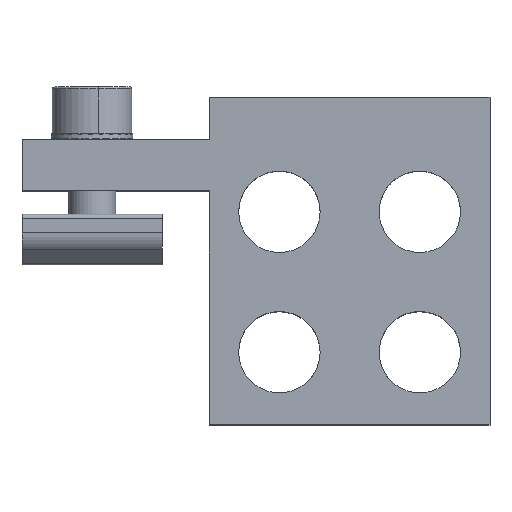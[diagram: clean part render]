
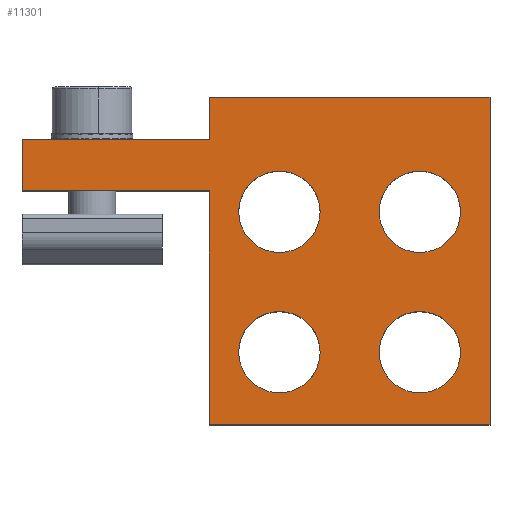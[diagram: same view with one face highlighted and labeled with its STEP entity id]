
A CAD part, top view. The second image highlights one B-rep face of the part: STEP entity #11301.
In plain terms, the highlighted planar face has unit normal (0, 0, 1).
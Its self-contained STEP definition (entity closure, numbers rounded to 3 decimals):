
#134 = CARTESIAN_POINT ( 'NONE',  ( -122.174, 7.97, 54.527 ) ) ;
#207 = FACE_BOUND ( 'NONE', #5509, .T. ) ;
#210 = AXIS2_PLACEMENT_3D ( 'NONE', #11751, #13752, #2068 ) ;
#212 = AXIS2_PLACEMENT_3D ( 'NONE', #3007, #5074, #2964 ) ;
#328 = EDGE_CURVE ( 'NONE', #13907, #859, #9540, .T. ) ;
#366 = ORIENTED_EDGE ( 'NONE', *, *, #11359, .T. ) ;
#859 = VERTEX_POINT ( 'NONE', #6932 ) ;
#898 = VERTEX_POINT ( 'NONE', #5910 ) ;
#912 = DIRECTION ( 'NONE',  ( 0., -1., 0. ) ) ;
#1255 = CARTESIAN_POINT ( 'NONE',  ( -99.674, 30.72, 54.527 ) ) ;
#1290 = EDGE_CURVE ( 'NONE', #12442, #4028, #12128, .T. ) ;
#1441 = ORIENTED_EDGE ( 'NONE', *, *, #4340, .F. ) ;
#1484 = DIRECTION ( 'NONE',  ( 0., 0., -1. ) ) ;
#1581 = AXIS2_PLACEMENT_3D ( 'NONE', #2614, #6012, #8123 ) ;
#1671 = EDGE_CURVE ( 'NONE', #859, #13907, #13091, .T. ) ;
#1685 = EDGE_CURVE ( 'NONE', #3381, #12442, #7378, .T. ) ;
#1709 = VERTEX_POINT ( 'NONE', #10033 ) ;
#1713 = CARTESIAN_POINT ( 'NONE',  ( -92.174, 25.47, 54.527 ) ) ;
#2068 = DIRECTION ( 'NONE',  ( 0., -1., 0. ) ) ;
#2482 = CARTESIAN_POINT ( 'NONE',  ( -117.174, 38.47, 54.527 ) ) ;
#2496 = DIRECTION ( 'NONE',  ( 0., -1., 0. ) ) ;
#2532 = CIRCLE ( 'NONE', #212, 4.35 ) ;
#2611 = CARTESIAN_POINT ( 'NONE',  ( -92.174, 42.97, 54.527 ) ) ;
#2614 = CARTESIAN_POINT ( 'NONE',  ( -99.674, 15.72, 54.527 ) ) ;
#2956 = EDGE_CURVE ( 'NONE', #6591, #10465, #2532, .T. ) ;
#2964 = DIRECTION ( 'NONE',  ( 0., -1., 0. ) ) ;
#3007 = CARTESIAN_POINT ( 'NONE',  ( -99.674, 15.72, 54.527 ) ) ;
#3073 = CARTESIAN_POINT ( 'NONE',  ( -122.174, 38.47, 54.527 ) ) ;
#3354 = VERTEX_POINT ( 'NONE', #3073 ) ;
#3381 = VERTEX_POINT ( 'NONE', #7369 ) ;
#3397 = FACE_BOUND ( 'NONE', #13721, .T. ) ;
#3504 = DIRECTION ( 'NONE',  ( -1., 0., 0. ) ) ;
#3583 = CARTESIAN_POINT ( 'NONE',  ( -114.674, 11.37, 54.527 ) ) ;
#3593 = DIRECTION ( 'NONE',  ( 1., 0., 0. ) ) ;
#3657 = CARTESIAN_POINT ( 'NONE',  ( -99.674, 35.07, 54.527 ) ) ;
#3665 = VERTEX_POINT ( 'NONE', #5774 ) ;
#3704 = DIRECTION ( 'NONE',  ( 0., 0., -1. ) ) ;
#3728 = DIRECTION ( 'NONE',  ( 0., 0., -1. ) ) ;
#3748 = LINE ( 'NONE', #11709, #13724 ) ;
#3763 = VECTOR ( 'NONE', #3504, 1000. ) ;
#3900 = CARTESIAN_POINT ( 'NONE',  ( -114.674, 15.72, 54.527 ) ) ;
#4028 = VERTEX_POINT ( 'NONE', #4633 ) ;
#4078 = AXIS2_PLACEMENT_3D ( 'NONE', #10541, #9499, #8378 ) ;
#4340 = EDGE_CURVE ( 'NONE', #3665, #898, #7211, .T. ) ;
#4472 = CARTESIAN_POINT ( 'NONE',  ( -99.674, 11.37, 54.527 ) ) ;
#4601 = DIRECTION ( 'NONE',  ( -1., 0., 0. ) ) ;
#4633 = CARTESIAN_POINT ( 'NONE',  ( -92.174, 7.97, 54.527 ) ) ;
#4963 = FACE_OUTER_BOUND ( 'NONE', #8060, .T. ) ;
#4977 = CARTESIAN_POINT ( 'NONE',  ( -99.674, 20.07, 54.527 ) ) ;
#5046 = CARTESIAN_POINT ( 'NONE',  ( -122.174, 42.97, 54.527 ) ) ;
#5074 = DIRECTION ( 'NONE',  ( 0., 0., -1. ) ) ;
#5236 = EDGE_CURVE ( 'NONE', #3354, #1709, #11897, .T. ) ;
#5257 = PLANE ( 'NONE',  #4078 ) ;
#5418 = EDGE_CURVE ( 'NONE', #10190, #3381, #6971, .T. ) ;
#5446 = ORIENTED_EDGE ( 'NONE', *, *, #2956, .T. ) ;
#5509 = EDGE_LOOP ( 'NONE', ( #8446, #5446 ) ) ;
#5770 = VECTOR ( 'NONE', #10368, 1000. ) ;
#5774 = CARTESIAN_POINT ( 'NONE',  ( -114.674, 26.37, 54.527 ) ) ;
#5817 = ORIENTED_EDGE ( 'NONE', *, *, #6789, .T. ) ;
#5910 = CARTESIAN_POINT ( 'NONE',  ( -114.674, 35.07, 54.527 ) ) ;
#6012 = DIRECTION ( 'NONE',  ( 0., 0., -1. ) ) ;
#6125 = LINE ( 'NONE', #1713, #5770 ) ;
#6138 = ORIENTED_EDGE ( 'NONE', *, *, #328, .T. ) ;
#6348 = ORIENTED_EDGE ( 'NONE', *, *, #11882, .T. ) ;
#6443 = ORIENTED_EDGE ( 'NONE', *, *, #6929, .T. ) ;
#6476 = AXIS2_PLACEMENT_3D ( 'NONE', #3900, #1484, #9398 ) ;
#6591 = VERTEX_POINT ( 'NONE', #4977 ) ;
#6629 = CARTESIAN_POINT ( 'NONE',  ( -114.674, 30.72, 54.527 ) ) ;
#6789 = EDGE_CURVE ( 'NONE', #13616, #11564, #9125, .T. ) ;
#6929 = EDGE_CURVE ( 'NONE', #11564, #13616, #7751, .T. ) ;
#6930 = CARTESIAN_POINT ( 'NONE',  ( -114.674, 15.72, 54.527 ) ) ;
#6932 = CARTESIAN_POINT ( 'NONE',  ( -99.674, 26.37, 54.527 ) ) ;
#6951 = DIRECTION ( 'NONE',  ( 0., -1., 0. ) ) ;
#6962 = CARTESIAN_POINT ( 'NONE',  ( -117.174, 32.97, 54.527 ) ) ;
#6971 = LINE ( 'NONE', #6962, #12708 ) ;
#7211 = CIRCLE ( 'NONE', #11132, 4.35 ) ;
#7266 = CARTESIAN_POINT ( 'NONE',  ( -142.174, 32.97, 54.527 ) ) ;
#7369 = CARTESIAN_POINT ( 'NONE',  ( -122.174, 32.97, 54.527 ) ) ;
#7378 = LINE ( 'NONE', #12166, #9737 ) ;
#7676 = AXIS2_PLACEMENT_3D ( 'NONE', #1255, #13215, #2496 ) ;
#7751 = CIRCLE ( 'NONE', #6476, 4.35 ) ;
#7812 = DIRECTION ( 'NONE',  ( 0., -1., 0. ) ) ;
#8060 = EDGE_LOOP ( 'NONE', ( #11616, #12195, #366, #12169, #6348, #8075, #13073, #10047 ) ) ;
#8075 = ORIENTED_EDGE ( 'NONE', *, *, #5418, .T. ) ;
#8094 = CARTESIAN_POINT ( 'NONE',  ( -117.174, 7.97, 54.527 ) ) ;
#8123 = DIRECTION ( 'NONE',  ( 0., -1., 0. ) ) ;
#8228 = VERTEX_POINT ( 'NONE', #5046 ) ;
#8231 = DIRECTION ( 'NONE',  ( 1., 0., 0. ) ) ;
#8263 = AXIS2_PLACEMENT_3D ( 'NONE', #6930, #3704, #13474 ) ;
#8378 = DIRECTION ( 'NONE',  ( 1., 0., 0. ) ) ;
#8380 = ORIENTED_EDGE ( 'NONE', *, *, #1671, .T. ) ;
#8446 = ORIENTED_EDGE ( 'NONE', *, *, #13492, .T. ) ;
#8644 = AXIS2_PLACEMENT_3D ( 'NONE', #10209, #3728, #6951 ) ;
#8782 = LINE ( 'NONE', #13700, #12826 ) ;
#8808 = DIRECTION ( 'NONE',  ( 0., 0., 1. ) ) ;
#8852 = VERTEX_POINT ( 'NONE', #2611 ) ;
#8944 = ORIENTED_EDGE ( 'NONE', *, *, #13208, .F. ) ;
#9125 = CIRCLE ( 'NONE', #8263, 4.35 ) ;
#9169 = EDGE_CURVE ( 'NONE', #8852, #8228, #11077, .T. ) ;
#9398 = DIRECTION ( 'NONE',  ( 0., -1., 0. ) ) ;
#9441 = DIRECTION ( 'NONE',  ( 0., -1., 0. ) ) ;
#9499 = DIRECTION ( 'NONE',  ( 0., 0., 1. ) ) ;
#9540 = CIRCLE ( 'NONE', #8644, 4.35 ) ;
#9651 = FACE_BOUND ( 'NONE', #12204, .T. ) ;
#9709 = CIRCLE ( 'NONE', #1581, 4.35 ) ;
#9737 = VECTOR ( 'NONE', #7812, 1000. ) ;
#9999 = FACE_BOUND ( 'NONE', #12029, .T. ) ;
#10033 = CARTESIAN_POINT ( 'NONE',  ( -142.174, 38.47, 54.527 ) ) ;
#10047 = ORIENTED_EDGE ( 'NONE', *, *, #1290, .T. ) ;
#10190 = VERTEX_POINT ( 'NONE', #7266 ) ;
#10209 = CARTESIAN_POINT ( 'NONE',  ( -99.674, 30.72, 54.527 ) ) ;
#10368 = DIRECTION ( 'NONE',  ( 0., 1., 0. ) ) ;
#10465 = VERTEX_POINT ( 'NONE', #4472 ) ;
#10541 = CARTESIAN_POINT ( 'NONE',  ( -142.174, 7.97, 54.527 ) ) ;
#10960 = VECTOR ( 'NONE', #8231, 1000. ) ;
#11077 = LINE ( 'NONE', #13368, #11264 ) ;
#11132 = AXIS2_PLACEMENT_3D ( 'NONE', #6629, #8808, #12978 ) ;
#11264 = VECTOR ( 'NONE', #4601, 1000. ) ;
#11301 = ADVANCED_FACE ( 'NONE', ( #207, #9999, #9651, #3397, #4963 ), #5257, .T. ) ;
#11359 = EDGE_CURVE ( 'NONE', #8228, #3354, #3748, .T. ) ;
#11452 = CARTESIAN_POINT ( 'NONE',  ( -114.674, 20.07, 54.527 ) ) ;
#11458 = CIRCLE ( 'NONE', #210, 4.35 ) ;
#11564 = VERTEX_POINT ( 'NONE', #3583 ) ;
#11616 = ORIENTED_EDGE ( 'NONE', *, *, #11733, .T. ) ;
#11709 = CARTESIAN_POINT ( 'NONE',  ( -122.174, 25.47, 54.527 ) ) ;
#11733 = EDGE_CURVE ( 'NONE', #4028, #8852, #6125, .T. ) ;
#11751 = CARTESIAN_POINT ( 'NONE',  ( -114.674, 30.72, 54.527 ) ) ;
#11882 = EDGE_CURVE ( 'NONE', #1709, #10190, #8782, .T. ) ;
#11897 = LINE ( 'NONE', #2482, #3763 ) ;
#12029 = EDGE_LOOP ( 'NONE', ( #8380, #6138 ) ) ;
#12128 = LINE ( 'NONE', #8094, #10960 ) ;
#12166 = CARTESIAN_POINT ( 'NONE',  ( -122.174, 25.47, 54.527 ) ) ;
#12169 = ORIENTED_EDGE ( 'NONE', *, *, #5236, .T. ) ;
#12195 = ORIENTED_EDGE ( 'NONE', *, *, #9169, .T. ) ;
#12204 = EDGE_LOOP ( 'NONE', ( #6443, #5817 ) ) ;
#12442 = VERTEX_POINT ( 'NONE', #134 ) ;
#12708 = VECTOR ( 'NONE', #3593, 1000. ) ;
#12826 = VECTOR ( 'NONE', #9441, 1000. ) ;
#12978 = DIRECTION ( 'NONE',  ( 0., -1., 0. ) ) ;
#13073 = ORIENTED_EDGE ( 'NONE', *, *, #1685, .T. ) ;
#13091 = CIRCLE ( 'NONE', #7676, 4.35 ) ;
#13208 = EDGE_CURVE ( 'NONE', #898, #3665, #11458, .T. ) ;
#13215 = DIRECTION ( 'NONE',  ( 0., 0., -1. ) ) ;
#13368 = CARTESIAN_POINT ( 'NONE',  ( -117.174, 42.97, 54.527 ) ) ;
#13474 = DIRECTION ( 'NONE',  ( 0., -1., 0. ) ) ;
#13492 = EDGE_CURVE ( 'NONE', #10465, #6591, #9709, .T. ) ;
#13616 = VERTEX_POINT ( 'NONE', #11452 ) ;
#13700 = CARTESIAN_POINT ( 'NONE',  ( -142.174, 25.47, 54.527 ) ) ;
#13721 = EDGE_LOOP ( 'NONE', ( #1441, #8944 ) ) ;
#13724 = VECTOR ( 'NONE', #912, 1000. ) ;
#13752 = DIRECTION ( 'NONE',  ( 0., 0., 1. ) ) ;
#13907 = VERTEX_POINT ( 'NONE', #3657 ) ;
